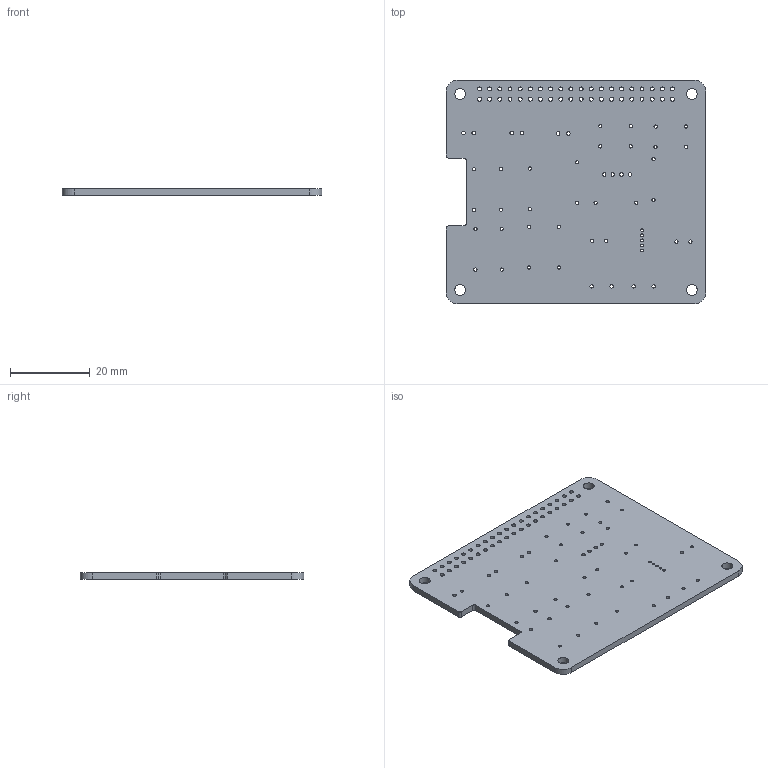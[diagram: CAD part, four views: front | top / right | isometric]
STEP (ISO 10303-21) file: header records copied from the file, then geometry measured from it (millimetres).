
FILE_DESCRIPTION(/* description */ (''),/* implementation_level */ '2;1');
FILE_NAME(/* name */ 'C:/Users/Zach/Desktop/Elly Enclosure/Custom PCB for Talkbox.step',/* time_stamp */ '2022-04-11T18:16:45-06:00',/* author */ (''),/* organization */ (''),/* preprocessor_version */ 'ST-DEVELOPER v18.1',/* originating_system */ 'Autodesk Translation Framework v10.14.0.1471',/* authorisation */ '');
FILE_SCHEMA (('AUTOMOTIVE_DESIGN { 1 0 10303 214 3 1 1 }'));
Length unit declared in the file: millimetre
Products named in the file (4): Talkbox Enclosure; Case; Talkbox; Talkbox PCB
Assembly tree (3 placements, depth 3):
  Talkbox Enclosure
    Case
    Talkbox
      Talkbox PCB
Bounding box: 65 x 56 x 1.6 mm (x, y, z)
Volume: 5546.3 mm3; surface area: 7789.9 mm2
Topology: 1 solids, 1 shells, 113 faces, 333 edges, 222 vertices
Faces by surface type: cylinder 103, plane 10
Full cylindrical faces by diameter (mm): 0.7 x5, 0.8 x28, 0.813 x8, 0.9 x10, 1 x40, 2.7 x4
Entity records: 4384 total; most frequent: DIRECTION 779, CARTESIAN_POINT 675, ORIENTED_EDGE 666, EDGE_CURVE 333, AXIS2_PLACEMENT_3D 326, EDGE_LOOP 303, VERTEX_POINT 222, CIRCLE 206
